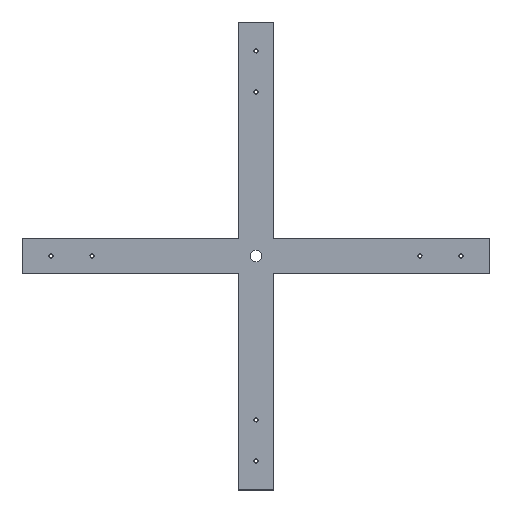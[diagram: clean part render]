
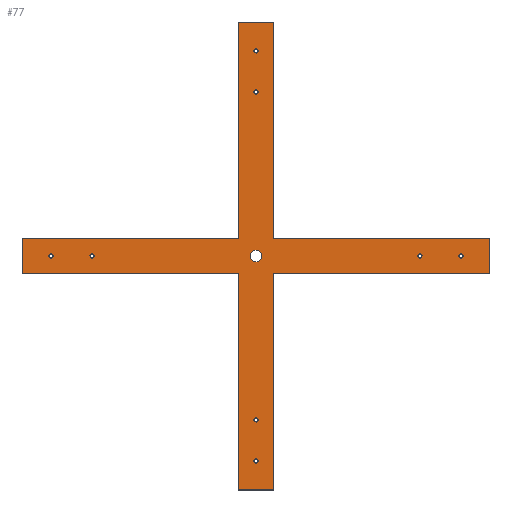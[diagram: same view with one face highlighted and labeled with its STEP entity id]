
A CAD part, top view. The second image highlights one B-rep face of the part: STEP entity #77.
In plain terms, the highlighted planar face has unit normal (0, 0, 1).
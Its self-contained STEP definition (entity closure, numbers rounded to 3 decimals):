
#77 = ADVANCED_FACE( '', ( #170, #171, #172, #173, #174, #175, #176, #177, #178, #179 ), #180, .T. );
#170 = FACE_BOUND( '', #273, .T. );
#171 = FACE_BOUND( '', #274, .T. );
#172 = FACE_BOUND( '', #275, .T. );
#173 = FACE_BOUND( '', #276, .T. );
#174 = FACE_BOUND( '', #277, .T. );
#175 = FACE_BOUND( '', #278, .T. );
#176 = FACE_BOUND( '', #279, .T. );
#177 = FACE_BOUND( '', #280, .T. );
#178 = FACE_BOUND( '', #281, .T. );
#179 = FACE_OUTER_BOUND( '', #282, .T. );
#180 = PLANE( '', #283 );
#273 = EDGE_LOOP( '', ( #435 ) );
#274 = EDGE_LOOP( '', ( #436 ) );
#275 = EDGE_LOOP( '', ( #437 ) );
#276 = EDGE_LOOP( '', ( #438 ) );
#277 = EDGE_LOOP( '', ( #439 ) );
#278 = EDGE_LOOP( '', ( #440 ) );
#279 = EDGE_LOOP( '', ( #441 ) );
#280 = EDGE_LOOP( '', ( #442 ) );
#281 = EDGE_LOOP( '', ( #443 ) );
#282 = EDGE_LOOP( '', ( #444, #445, #446, #447, #448, #449, #450, #451, #452, #453, #454, #455 ) );
#283 = AXIS2_PLACEMENT_3D( '', #456, #457, #458 );
#435 = ORIENTED_EDGE( '', *, *, #510, .F. );
#436 = ORIENTED_EDGE( '', *, *, #570, .F. );
#437 = ORIENTED_EDGE( '', *, *, #562, .F. );
#438 = ORIENTED_EDGE( '', *, *, #571, .F. );
#439 = ORIENTED_EDGE( '', *, *, #513, .F. );
#440 = ORIENTED_EDGE( '', *, *, #547, .F. );
#441 = ORIENTED_EDGE( '', *, *, #572, .F. );
#442 = ORIENTED_EDGE( '', *, *, #529, .F. );
#443 = ORIENTED_EDGE( '', *, *, #526, .F. );
#444 = ORIENTED_EDGE( '', *, *, #534, .T. );
#445 = ORIENTED_EDGE( '', *, *, #566, .T. );
#446 = ORIENTED_EDGE( '', *, *, #518, .T. );
#447 = ORIENTED_EDGE( '', *, *, #564, .T. );
#448 = ORIENTED_EDGE( '', *, *, #544, .T. );
#449 = ORIENTED_EDGE( '', *, *, #573, .T. );
#450 = ORIENTED_EDGE( '', *, *, #574, .T. );
#451 = ORIENTED_EDGE( '', *, *, #575, .T. );
#452 = ORIENTED_EDGE( '', *, *, #523, .T. );
#453 = ORIENTED_EDGE( '', *, *, #576, .T. );
#454 = ORIENTED_EDGE( '', *, *, #539, .T. );
#455 = ORIENTED_EDGE( '', *, *, #568, .T. );
#456 = CARTESIAN_POINT( '', ( 0., 0., 30. ) );
#457 = DIRECTION( '', ( 0., 0., 1. ) );
#458 = DIRECTION( '', ( 1., 0., 0. ) );
#510 = EDGE_CURVE( '', #587, #587, #588, .T. );
#513 = EDGE_CURVE( '', #592, #592, #593, .T. );
#518 = EDGE_CURVE( '', #602, #600, #603, .T. );
#523 = EDGE_CURVE( '', #611, #609, #612, .T. );
#526 = EDGE_CURVE( '', #615, #615, #616, .T. );
#529 = EDGE_CURVE( '', #620, #620, #621, .T. );
#534 = EDGE_CURVE( '', #630, #628, #631, .T. );
#539 = EDGE_CURVE( '', #639, #637, #640, .T. );
#544 = EDGE_CURVE( '', #648, #646, #649, .T. );
#547 = EDGE_CURVE( '', #652, #652, #653, .T. );
#562 = EDGE_CURVE( '', #675, #675, #676, .T. );
#564 = EDGE_CURVE( '', #600, #648, #678, .T. );
#566 = EDGE_CURVE( '', #628, #602, #680, .T. );
#568 = EDGE_CURVE( '', #637, #630, #682, .T. );
#570 = EDGE_CURVE( '', #684, #684, #685, .T. );
#571 = EDGE_CURVE( '', #686, #686, #687, .T. );
#572 = EDGE_CURVE( '', #688, #688, #689, .T. );
#573 = EDGE_CURVE( '', #646, #690, #691, .T. );
#574 = EDGE_CURVE( '', #690, #692, #693, .T. );
#575 = EDGE_CURVE( '', #692, #611, #694, .T. );
#576 = EDGE_CURVE( '', #609, #639, #695, .T. );
#587 = VERTEX_POINT( '', #706 );
#588 = CIRCLE( '', #707, 3.5 );
#592 = VERTEX_POINT( '', #711 );
#593 = CIRCLE( '', #712, 3.5 );
#600 = VERTEX_POINT( '', #720 );
#602 = VERTEX_POINT( '', #723 );
#603 = LINE( '', #724, #725 );
#609 = VERTEX_POINT( '', #733 );
#611 = VERTEX_POINT( '', #736 );
#612 = LINE( '', #737, #738 );
#615 = VERTEX_POINT( '', #742 );
#616 = CIRCLE( '', #743, 3.5 );
#620 = VERTEX_POINT( '', #747 );
#621 = CIRCLE( '', #748, 3.5 );
#628 = VERTEX_POINT( '', #756 );
#630 = VERTEX_POINT( '', #759 );
#631 = LINE( '', #760, #761 );
#637 = VERTEX_POINT( '', #769 );
#639 = VERTEX_POINT( '', #772 );
#640 = LINE( '', #773, #774 );
#646 = VERTEX_POINT( '', #782 );
#648 = VERTEX_POINT( '', #785 );
#649 = LINE( '', #786, #787 );
#652 = VERTEX_POINT( '', #791 );
#653 = CIRCLE( '', #792, 3.5 );
#675 = VERTEX_POINT( '', #821 );
#676 = CIRCLE( '', #822, 10. );
#678 = LINE( '', #824, #825 );
#680 = LINE( '', #827, #828 );
#682 = LINE( '', #830, #831 );
#684 = VERTEX_POINT( '', #833 );
#685 = CIRCLE( '', #834, 3.5 );
#686 = VERTEX_POINT( '', #835 );
#687 = CIRCLE( '', #836, 3.5 );
#688 = VERTEX_POINT( '', #837 );
#689 = CIRCLE( '', #838, 3.5 );
#690 = VERTEX_POINT( '', #839 );
#691 = LINE( '', #840, #841 );
#692 = VERTEX_POINT( '', #842 );
#693 = LINE( '', #843, #844 );
#694 = LINE( '', #845, #846 );
#695 = LINE( '', #847, #848 );
#706 = CARTESIAN_POINT( '', ( -346.1, 0., 30. ) );
#707 = AXIS2_PLACEMENT_3D( '', #860, #861, #862 );
#711 = CARTESIAN_POINT( '', ( 3.5, -349.6, 30. ) );
#712 = AXIS2_PLACEMENT_3D( '', #866, #867, #868 );
#720 = CARTESIAN_POINT( '', ( -30., -399., 30. ) );
#723 = CARTESIAN_POINT( '', ( -30., -30., 30. ) );
#724 = CARTESIAN_POINT( '', ( -30., -30., 30. ) );
#725 = VECTOR( '', #874, 1000. );
#733 = CARTESIAN_POINT( '', ( 30., 399., 30. ) );
#736 = CARTESIAN_POINT( '', ( 30., 30., 30. ) );
#737 = CARTESIAN_POINT( '', ( 30., 30., 30. ) );
#738 = VECTOR( '', #878, 1000. );
#742 = CARTESIAN_POINT( '', ( 353.1, 0., 30. ) );
#743 = AXIS2_PLACEMENT_3D( '', #880, #881, #882 );
#747 = CARTESIAN_POINT( '', ( 283.1, 0., 30. ) );
#748 = AXIS2_PLACEMENT_3D( '', #886, #887, #888 );
#756 = CARTESIAN_POINT( '', ( -399., -30., 30. ) );
#759 = CARTESIAN_POINT( '', ( -399., 30., 30. ) );
#760 = CARTESIAN_POINT( '', ( -399., 30., 30. ) );
#761 = VECTOR( '', #894, 1000. );
#769 = CARTESIAN_POINT( '', ( -30., 30., 30. ) );
#772 = CARTESIAN_POINT( '', ( -30., 399., 30. ) );
#773 = CARTESIAN_POINT( '', ( -30., 399., 30. ) );
#774 = VECTOR( '', #898, 1000. );
#782 = CARTESIAN_POINT( '', ( 30., -30., 30. ) );
#785 = CARTESIAN_POINT( '', ( 30., -399., 30. ) );
#786 = CARTESIAN_POINT( '', ( 30., -399., 30. ) );
#787 = VECTOR( '', #902, 1000. );
#791 = CARTESIAN_POINT( '', ( 3.5, -279.6, 30. ) );
#792 = AXIS2_PLACEMENT_3D( '', #904, #905, #906 );
#821 = CARTESIAN_POINT( '', ( 10., 0., 30. ) );
#822 = AXIS2_PLACEMENT_3D( '', #929, #930, #931 );
#824 = CARTESIAN_POINT( '', ( -30., -399., 30. ) );
#825 = VECTOR( '', #932, 1000. );
#827 = CARTESIAN_POINT( '', ( -399., -30., 30. ) );
#828 = VECTOR( '', #933, 1000. );
#830 = CARTESIAN_POINT( '', ( -30., 30., 30. ) );
#831 = VECTOR( '', #934, 1000. );
#833 = CARTESIAN_POINT( '', ( -276.1, 0., 30. ) );
#834 = AXIS2_PLACEMENT_3D( '', #935, #936, #937 );
#835 = CARTESIAN_POINT( '', ( 3.5, 349.6, 30. ) );
#836 = AXIS2_PLACEMENT_3D( '', #938, #939, #940 );
#837 = CARTESIAN_POINT( '', ( 3.5, 279.6, 30. ) );
#838 = AXIS2_PLACEMENT_3D( '', #941, #942, #943 );
#839 = CARTESIAN_POINT( '', ( 399., -30., 30. ) );
#840 = CARTESIAN_POINT( '', ( 30., -30., 30. ) );
#841 = VECTOR( '', #944, 1000. );
#842 = CARTESIAN_POINT( '', ( 399., 30., 30. ) );
#843 = CARTESIAN_POINT( '', ( 399., -30., 30. ) );
#844 = VECTOR( '', #945, 1000. );
#845 = CARTESIAN_POINT( '', ( 399., 30., 30. ) );
#846 = VECTOR( '', #946, 1000. );
#847 = CARTESIAN_POINT( '', ( 30., 399., 30. ) );
#848 = VECTOR( '', #947, 1000. );
#860 = CARTESIAN_POINT( '', ( -349.6, 0., 30. ) );
#861 = DIRECTION( '', ( 0., 0., 1. ) );
#862 = DIRECTION( '', ( 1., 0., 0. ) );
#866 = CARTESIAN_POINT( '', ( 0., -349.6, 30. ) );
#867 = DIRECTION( '', ( 0., 0., 1. ) );
#868 = DIRECTION( '', ( 1., 0., 0. ) );
#874 = DIRECTION( '', ( 0., -1., 0. ) );
#878 = DIRECTION( '', ( 0., 1., 0. ) );
#880 = CARTESIAN_POINT( '', ( 349.6, 0., 30. ) );
#881 = DIRECTION( '', ( 0., 0., 1. ) );
#882 = DIRECTION( '', ( 1., 0., 0. ) );
#886 = CARTESIAN_POINT( '', ( 279.6, 0., 30. ) );
#887 = DIRECTION( '', ( 0., 0., 1. ) );
#888 = DIRECTION( '', ( 1., 0., 0. ) );
#894 = DIRECTION( '', ( 0., -1., 0. ) );
#898 = DIRECTION( '', ( 0., -1., 0. ) );
#902 = DIRECTION( '', ( 0., 1., 0. ) );
#904 = CARTESIAN_POINT( '', ( 0., -279.6, 30. ) );
#905 = DIRECTION( '', ( 0., 0., 1. ) );
#906 = DIRECTION( '', ( 1., 0., 0. ) );
#929 = CARTESIAN_POINT( '', ( 0., 0., 30. ) );
#930 = DIRECTION( '', ( 0., 0., 1. ) );
#931 = DIRECTION( '', ( 1., 0., 0. ) );
#932 = DIRECTION( '', ( 1., 0., 0. ) );
#933 = DIRECTION( '', ( 1., 0., 0. ) );
#934 = DIRECTION( '', ( -1., 0., 0. ) );
#935 = CARTESIAN_POINT( '', ( -279.6, 0., 30. ) );
#936 = DIRECTION( '', ( 0., 0., 1. ) );
#937 = DIRECTION( '', ( 1., 0., 0. ) );
#938 = CARTESIAN_POINT( '', ( 0., 349.6, 30. ) );
#939 = DIRECTION( '', ( 0., 0., 1. ) );
#940 = DIRECTION( '', ( 1., 0., 0. ) );
#941 = CARTESIAN_POINT( '', ( 0., 279.6, 30. ) );
#942 = DIRECTION( '', ( 0., 0., 1. ) );
#943 = DIRECTION( '', ( 1., 0., 0. ) );
#944 = DIRECTION( '', ( 1., 0., 0. ) );
#945 = DIRECTION( '', ( 0., 1., 0. ) );
#946 = DIRECTION( '', ( -1., 0., 0. ) );
#947 = DIRECTION( '', ( -1., 0., 0. ) );
